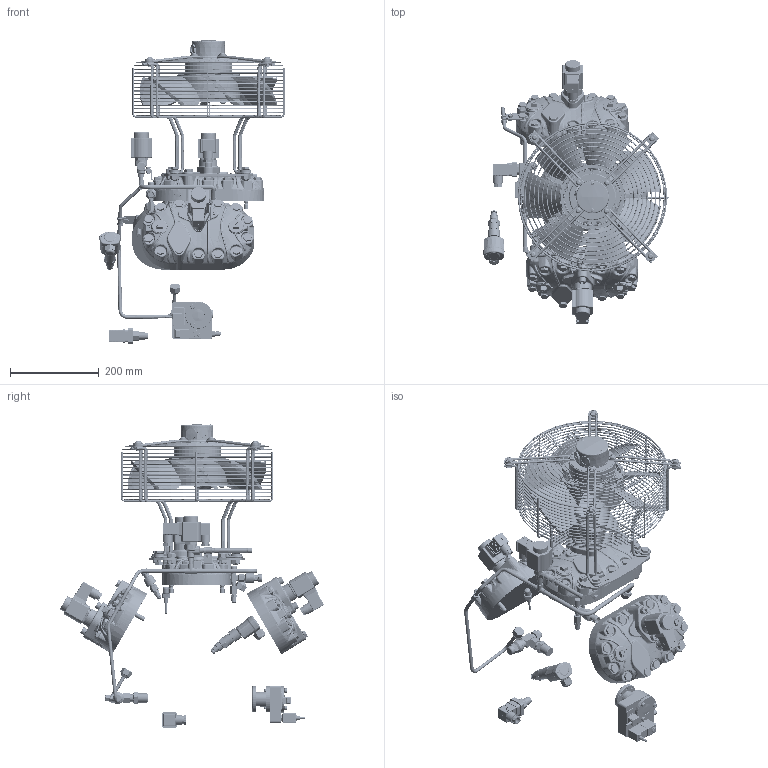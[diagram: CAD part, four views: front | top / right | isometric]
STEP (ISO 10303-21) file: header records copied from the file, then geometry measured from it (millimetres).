
FILE_DESCRIPTION(/* description */ (''),/* implementation_level */ '2;1');
FILE_NAME(/* name */ 'BE6 Option.stp',/* time_stamp */ '2024-06-03T15:39:42+02:00',/* author */ (''),/* organization */ (''),/* preprocessor_version */ 'ST-DEVELOPER v19.4',/* originating_system */ 'SIEMENS PLM Software NX2212.8901',/* authorisation */ '');
FILE_SCHEMA (('AUTOMOTIVE_DESIGN { 1 0 10303 214 3 1 1 1 }'));
Products named in the file (11): 200419917ugm001_00; 200695315ugm001_00; 200050580ugm001_00; 200062173ugm001_00; 200047439ugm001_00; 200068622ugm001_00; 200634332ugm001_01; 200080885ugm001_00; 200075648ugm001_00; 200017190ugm001_01; 200052463ugm001_07
Assembly tree (14 placements, depth 2):
  200052463ugm001_07
    200017190ugm001_01
    200075648ugm001_00
    200080885ugm001_00
    200634332ugm001_01
    200068622ugm001_00
    200047439ugm001_00  x3
    200062173ugm001_00
    200050580ugm001_00  x3
    200695315ugm001_00
    200419917ugm001_00
Bounding box: 418.71 x 596.06 x 685.56 mm (x, y, z)
Volume: 16112861.2 mm3; surface area: 1766917.6 mm2
Topology: 16 solids, 108 shells, 16709 faces, 42107 edges, 24973 vertices
Faces by surface type: bspline 5627, plane 4800, cylinder 2454, cone 1587, torus 1253, extrusion 656, sphere 332
Full cylindrical faces by diameter (mm): 2.5 x1, 3 x5, 3.2 x1, 3.5 x3, 4 x2, 4.9 x1, 5 x3, 5.795 x4, 6 x6, 6.2 x1, 6.25 x4, 6.4 x4, 6.5 x1, 6.6 x2, 6.9 x3, 7 x14, 7.2 x3, 7.7 x8, 7.9 x3, 8 x28, 8.16 x1, 8.4 x3, 8.9 x2, 9 x3, 9.5 x4, 9.8 x1, 9.838 x20, 10 x24, 10.2 x1, 10.287 x1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
Entity records: 439740 total; most frequent: CARTESIAN_POINT 205525, ORIENTED_EDGE 47276, DIRECTION 35305, EDGE_CURVE 23638, VERTEX_POINT 14748, AXIS2_PLACEMENT_3D 14034, EDGE_LOOP 10895, ADVANCED_FACE 9528
